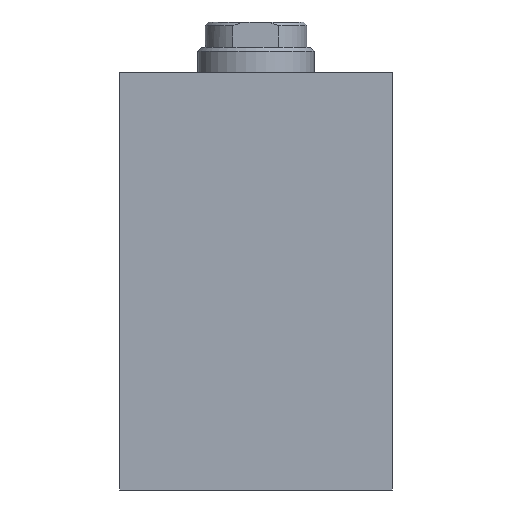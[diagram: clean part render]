
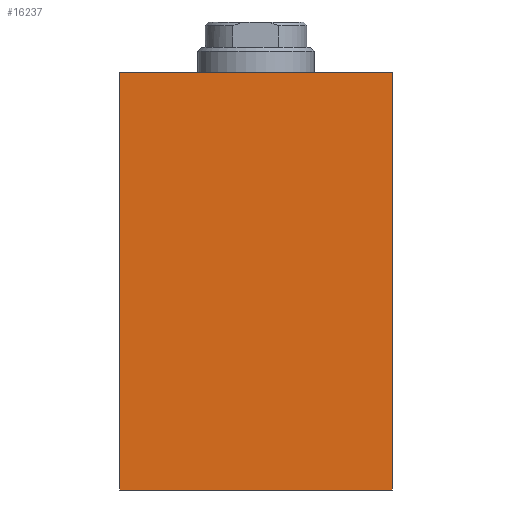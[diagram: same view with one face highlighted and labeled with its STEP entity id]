
A CAD part, front view. The second image highlights one B-rep face of the part: STEP entity #16237.
In plain terms, the highlighted planar face has unit normal (0, -1, 0).
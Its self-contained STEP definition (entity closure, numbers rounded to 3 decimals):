
#90 = LINE ( 'NONE', #13885, #11136 ) ;
#2171 = EDGE_CURVE ( 'NONE', #11061, #17967, #19330, .T. ) ;
#2901 = DIRECTION ( 'NONE',  ( 0., 0., -1. ) ) ;
#2912 = DIRECTION ( 'NONE',  ( 0., 1., 0. ) ) ;
#2930 = VERTEX_POINT ( 'NONE', #6552 ) ;
#3903 = CARTESIAN_POINT ( 'NONE',  ( 0., 0., 0. ) ) ;
#4512 = PLANE ( 'NONE',  #5609 ) ;
#4708 = LINE ( 'NONE', #6135, #14150 ) ;
#5038 = ORIENTED_EDGE ( 'NONE', *, *, #17899, .F. ) ;
#5609 = AXIS2_PLACEMENT_3D ( 'NONE', #12609, #2912, #14360 ) ;
#5940 = DIRECTION ( 'NONE',  ( 1., 0., 0. ) ) ;
#6135 = CARTESIAN_POINT ( 'NONE',  ( 0., 0., 115. ) ) ;
#6552 = CARTESIAN_POINT ( 'NONE',  ( 75., 0., 115. ) ) ;
#7517 = FACE_OUTER_BOUND ( 'NONE', #20212, .T. ) ;
#8267 = CARTESIAN_POINT ( 'NONE',  ( 75., 0., 0. ) ) ;
#8526 = LINE ( 'NONE', #11220, #18457 ) ;
#8894 = DIRECTION ( 'NONE',  ( 1., 0., 0. ) ) ;
#11061 = VERTEX_POINT ( 'NONE', #3903 ) ;
#11136 = VECTOR ( 'NONE', #8894, 1000. ) ;
#11220 = CARTESIAN_POINT ( 'NONE',  ( 75., 0., 115. ) ) ;
#12258 = CARTESIAN_POINT ( 'NONE',  ( 0., 0., 0. ) ) ;
#12481 = VECTOR ( 'NONE', #5940, 1000. ) ;
#12609 = CARTESIAN_POINT ( 'NONE',  ( 0., 0., 115. ) ) ;
#12669 = ORIENTED_EDGE ( 'NONE', *, *, #16771, .F. ) ;
#12758 = ORIENTED_EDGE ( 'NONE', *, *, #2171, .T. ) ;
#13885 = CARTESIAN_POINT ( 'NONE',  ( 0., 0., 115. ) ) ;
#14150 = VECTOR ( 'NONE', #16185, 1000. ) ;
#14183 = ORIENTED_EDGE ( 'NONE', *, *, #17810, .T. ) ;
#14299 = VERTEX_POINT ( 'NONE', #16255 ) ;
#14360 = DIRECTION ( 'NONE',  ( 0., 0., 1. ) ) ;
#16185 = DIRECTION ( 'NONE',  ( 0., 0., -1. ) ) ;
#16237 = ADVANCED_FACE ( 'NONE', ( #7517 ), #4512, .F. ) ;
#16255 = CARTESIAN_POINT ( 'NONE',  ( 0., 0., 115. ) ) ;
#16771 = EDGE_CURVE ( 'NONE', #14299, #2930, #90, .T. ) ;
#17810 = EDGE_CURVE ( 'NONE', #14299, #11061, #4708, .T. ) ;
#17899 = EDGE_CURVE ( 'NONE', #2930, #17967, #8526, .T. ) ;
#17967 = VERTEX_POINT ( 'NONE', #8267 ) ;
#18457 = VECTOR ( 'NONE', #2901, 1000. ) ;
#19330 = LINE ( 'NONE', #12258, #12481 ) ;
#20212 = EDGE_LOOP ( 'NONE', ( #12758, #5038, #12669, #14183 ) ) ;
